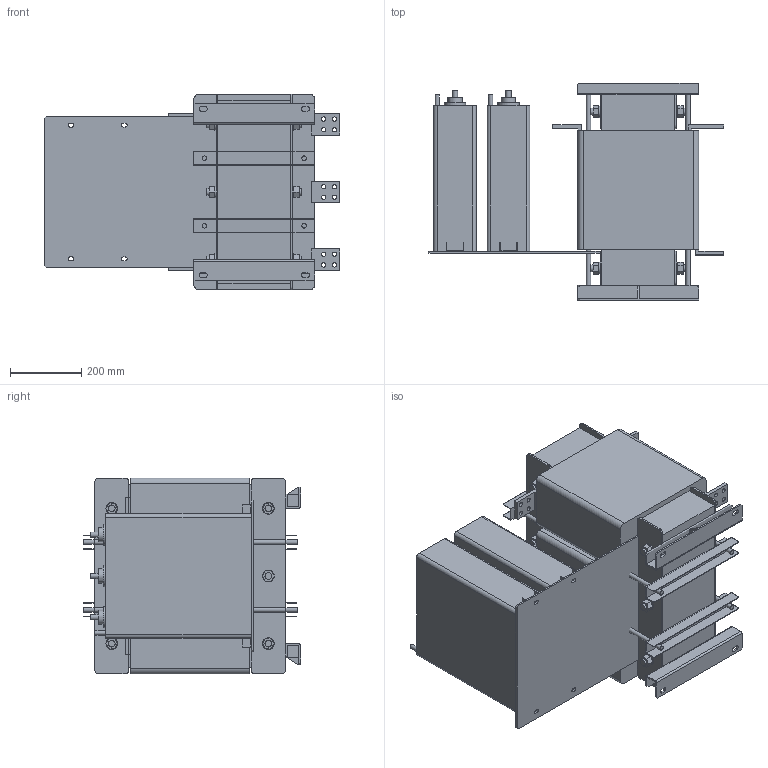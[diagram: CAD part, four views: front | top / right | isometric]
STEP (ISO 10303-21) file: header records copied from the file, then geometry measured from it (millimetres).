
FILE_DESCRIPTION(/* description */ (''),/* implementation_level */ '2;1');
FILE_NAME(/* name */ 'Sin-T6-1100.stp',/* time_stamp */ '2025-02-25T11:07:07+04:00',/* author */ ('Лео'),/* organization */ (''),/* preprocessor_version */ 'ST-DEVELOPER v19.2',/* originating_system */ 'Autodesk Inventor 2024',/* authorisation */ '');
FILE_SCHEMA (('AUTOMOTIVE_DESIGN { 1 0 10303 214 3 1 1 }'));
Length unit declared in the file: millimetre
Products named in the file (1): Sin-T6-1100
Bounding box: 830 x 610 x 550 mm (x, y, z)
Volume: 117398467.9 mm3; surface area: 4219968.1 mm2
Topology: 26 solids, 26 shells, 665 faces, 1532 edges, 964 vertices
Faces by surface type: plane 501, cylinder 164
Full cylindrical faces by diameter (mm): 12 x38, 13 x12, 15 x6, 19 x12, 32.562 x12, 40 x6, 60 x6
Entity records: 18780 total; most frequent: DIRECTION 3264, CARTESIAN_POINT 3162, ORIENTED_EDGE 3064, EDGE_CURVE 1532, LINE 1132, VECTOR 1132, AXIS2_PLACEMENT_3D 1066, VERTEX_POINT 964
